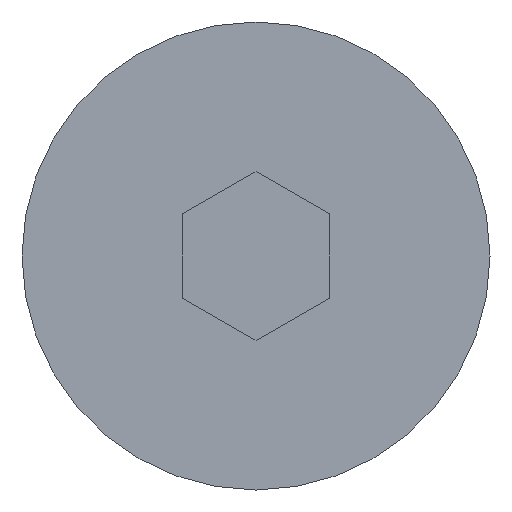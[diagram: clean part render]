
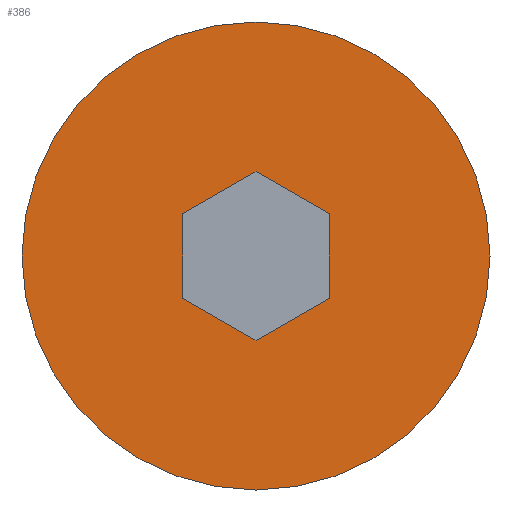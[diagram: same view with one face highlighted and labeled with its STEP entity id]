
A CAD part, front view. The second image highlights one B-rep face of the part: STEP entity #386.
In plain terms, the highlighted planar face has unit normal (0, -1, 0).
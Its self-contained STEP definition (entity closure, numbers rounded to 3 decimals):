
#93=CARTESIAN_POINT('',(0.,-4.4,0.));
#94=DIRECTION('',(0.,-1.,0.));
#95=DIRECTION('',(1.,0.,0.));
#96=AXIS2_PLACEMENT_3D('',#93,#94,#95);
#98=CARTESIAN_POINT('',(0.,-4.4,0.));
#99=DIRECTION('',(0.,-1.,0.));
#100=DIRECTION('',(-1.,0.,0.));
#101=AXIS2_PLACEMENT_3D('',#98,#99,#100);
#103=DIRECTION('',(0.,0.,1.));
#104=VECTOR('',#103,2.887);
#105=CARTESIAN_POINT('',(2.5,-4.4,-1.443));
#106=LINE('',#105,#104);
#107=DIRECTION('',(-0.866,0.,0.5));
#108=VECTOR('',#107,2.887);
#109=CARTESIAN_POINT('',(2.5,-4.4,1.443));
#110=LINE('',#109,#108);
#111=DIRECTION('',(-0.866,0.,-0.5));
#112=VECTOR('',#111,2.887);
#113=CARTESIAN_POINT('',(0.,-4.4,2.887));
#114=LINE('',#113,#112);
#115=DIRECTION('',(0.,0.,-1.));
#116=VECTOR('',#115,2.887);
#117=CARTESIAN_POINT('',(-2.5,-4.4,1.443));
#118=LINE('',#117,#116);
#119=DIRECTION('',(0.866,0.,-0.5));
#120=VECTOR('',#119,2.887);
#121=CARTESIAN_POINT('',(-2.5,-4.4,-1.443));
#122=LINE('',#121,#120);
#123=DIRECTION('',(0.866,0.,0.5));
#124=VECTOR('',#123,2.887);
#125=CARTESIAN_POINT('',(0.,-4.4,-2.887));
#126=LINE('',#125,#124);
#175=CARTESIAN_POINT('',(8.,-4.4,0.));
#176=CARTESIAN_POINT('',(-8.,-4.4,0.));
#177=VERTEX_POINT('',#175);
#178=VERTEX_POINT('',#176);
#191=CARTESIAN_POINT('',(2.5,-4.4,-1.443));
#192=CARTESIAN_POINT('',(2.5,-4.4,1.443));
#193=VERTEX_POINT('',#191);
#194=VERTEX_POINT('',#192);
#195=CARTESIAN_POINT('',(0.,-4.4,2.887));
#196=VERTEX_POINT('',#195);
#197=CARTESIAN_POINT('',(-2.5,-4.4,1.443));
#198=VERTEX_POINT('',#197);
#199=CARTESIAN_POINT('',(-2.5,-4.4,-1.443));
#200=VERTEX_POINT('',#199);
#201=CARTESIAN_POINT('',(0.,-4.4,-2.887));
#202=VERTEX_POINT('',#201);
#363=CARTESIAN_POINT('',(0.,-4.4,0.));
#364=DIRECTION('',(0.,-1.,0.));
#365=DIRECTION('',(1.,0.,0.));
#366=AXIS2_PLACEMENT_3D('',#363,#364,#365);
#367=PLANE('',#366);
#368=ORIENTED_EDGE('',*,*,#357,.F.);
#369=ORIENTED_EDGE('',*,*,#341,.F.);
#370=EDGE_LOOP('',(#368,#369));
#371=FACE_OUTER_BOUND('',#370,.F.);
#373=ORIENTED_EDGE('',*,*,#372,.T.);
#375=ORIENTED_EDGE('',*,*,#374,.T.);
#377=ORIENTED_EDGE('',*,*,#376,.T.);
#379=ORIENTED_EDGE('',*,*,#378,.T.);
#381=ORIENTED_EDGE('',*,*,#380,.T.);
#383=ORIENTED_EDGE('',*,*,#382,.T.);
#384=EDGE_LOOP('',(#373,#375,#377,#379,#381,#383));
#385=FACE_BOUND('',#384,.F.);
#386=ADVANCED_FACE('',(#371,#385),#367,.T.);
#97=CIRCLE('',#96,8.);
#102=CIRCLE('',#101,8.);
#341=EDGE_CURVE('',#178,#177,#102,.T.);
#357=EDGE_CURVE('',#177,#178,#97,.T.);
#372=EDGE_CURVE('',#193,#194,#106,.T.);
#374=EDGE_CURVE('',#194,#196,#110,.T.);
#376=EDGE_CURVE('',#196,#198,#114,.T.);
#378=EDGE_CURVE('',#198,#200,#118,.T.);
#380=EDGE_CURVE('',#200,#202,#122,.T.);
#382=EDGE_CURVE('',#202,#193,#126,.T.);
